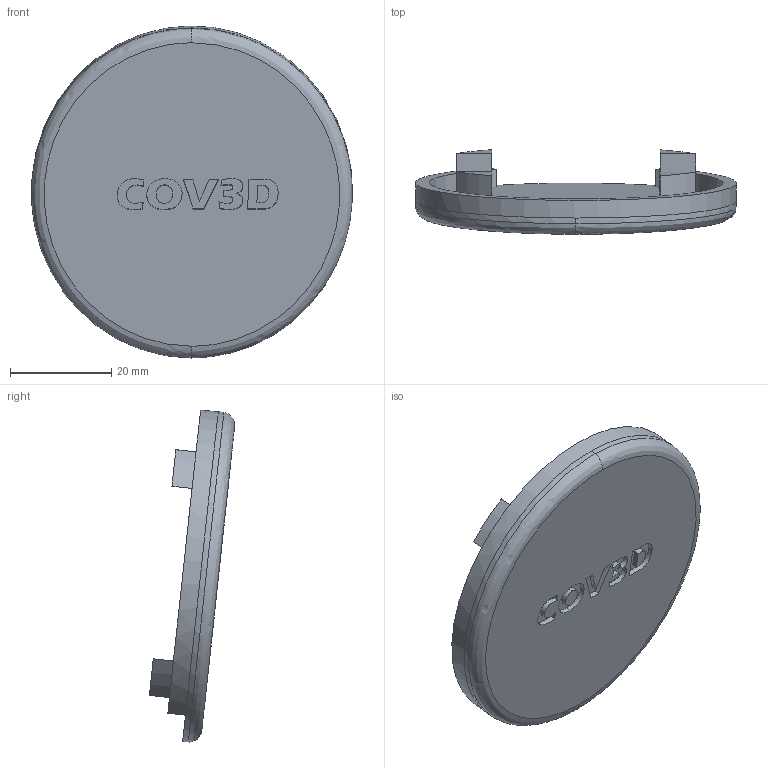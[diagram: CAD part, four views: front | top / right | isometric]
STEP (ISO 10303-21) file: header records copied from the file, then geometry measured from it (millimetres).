
FILE_DESCRIPTION(/* description */ (''),/* implementation_level */ '2;1');
FILE_NAME(/* name */ 'L-NARR~1',/* time_stamp */ '2020-04-10T21:40:27+03:00',/* author */ (''),/* organization */ (''),/* preprocessor_version */ 'ST-DEVELOPER v16.5',/* originating_system */ '',/* authorisation */ '');
FILE_SCHEMA (('AUTOMOTIVE_DESIGN'));
Length unit declared in the file: millimetre
Products named in the file (1): Document
Bounding box: 63.37 x 16.82 x 65.58 mm (x, y, z)
Volume: 13417.5 mm3; surface area: 9032.6 mm2
Topology: 1 solids, 1 shells, 67 faces, 158 edges, 104 vertices
Faces by surface type: bspline 44, plane 23
Entity records: 2836 total; most frequent: CARTESIAN_POINT 1768, ORIENTED_EDGE 316, EDGE_CURVE 158, B_SPLINE_CURVE_WITH_KNOTS 131, VERTEX_POINT 104, EDGE_LOOP 78, ADVANCED_FACE 67, FACE_OUTER_BOUND 67
